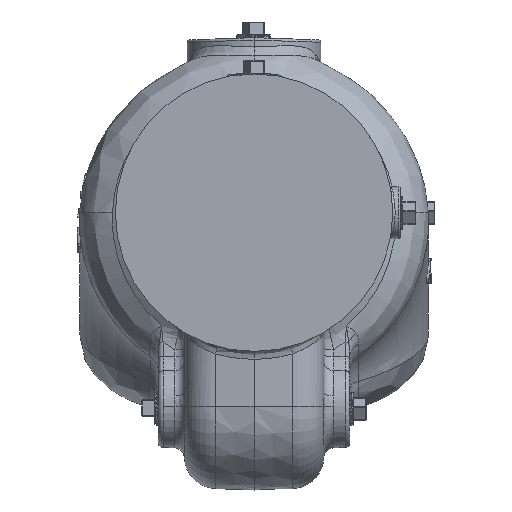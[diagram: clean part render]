
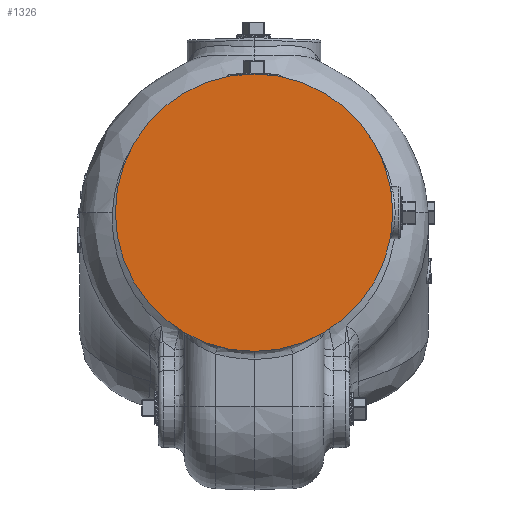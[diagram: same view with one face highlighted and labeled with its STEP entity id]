
A CAD part, left-side view. The second image highlights one B-rep face of the part: STEP entity #1326.
In plain terms, the highlighted planar face has unit normal (-1, 0, 0).
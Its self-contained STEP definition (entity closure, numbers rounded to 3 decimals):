
#551 = PLANE ( 'NONE',  #17696 ) ;
#1326 = ADVANCED_FACE ( 'NONE', ( #21618 ), #551, .F. ) ;
#2961 = ORIENTED_EDGE ( 'NONE', *, *, #23750, .T. ) ;
#3683 = DIRECTION ( 'NONE',  ( 0., 1., 0. ) ) ;
#8955 = CARTESIAN_POINT ( 'NONE',  ( -81., 0., 0. ) ) ;
#9356 = DIRECTION ( 'NONE',  ( 1., 0., 0. ) ) ;
#12035 = EDGE_CURVE ( 'NONE', #37047, #25925, #24623, .T. ) ;
#12944 = AXIS2_PLACEMENT_3D ( 'NONE', #8955, #14123, #17286 ) ;
#14123 = DIRECTION ( 'NONE',  ( -1., 0., 0. ) ) ;
#14941 = CARTESIAN_POINT ( 'NONE',  ( -81., 0., 86.25 ) ) ;
#15147 = EDGE_LOOP ( 'NONE', ( #2961, #22443 ) ) ;
#16721 = DIRECTION ( 'NONE',  ( 0., 0., -1. ) ) ;
#17286 = DIRECTION ( 'NONE',  ( 0., 0., -1. ) ) ;
#17696 = AXIS2_PLACEMENT_3D ( 'NONE', #35451, #9356, #3683 ) ;
#18351 = AXIS2_PLACEMENT_3D ( 'NONE', #30826, #33984, #16721 ) ;
#21618 = FACE_OUTER_BOUND ( 'NONE', #15147, .T. ) ;
#22443 = ORIENTED_EDGE ( 'NONE', *, *, #12035, .T. ) ;
#22652 = CIRCLE ( 'NONE', #18351, 86.25 ) ;
#23750 = EDGE_CURVE ( 'NONE', #25925, #37047, #22652, .T. ) ;
#24623 = CIRCLE ( 'NONE', #12944, 86.25 ) ;
#25925 = VERTEX_POINT ( 'NONE', #14941 ) ;
#30826 = CARTESIAN_POINT ( 'NONE',  ( -81., 0., 0. ) ) ;
#33984 = DIRECTION ( 'NONE',  ( -1., 0., 0. ) ) ;
#35150 = CARTESIAN_POINT ( 'NONE',  ( -81., 0., -86.25 ) ) ;
#35451 = CARTESIAN_POINT ( 'NONE',  ( -81., 0., 0. ) ) ;
#37047 = VERTEX_POINT ( 'NONE', #35150 ) ;
